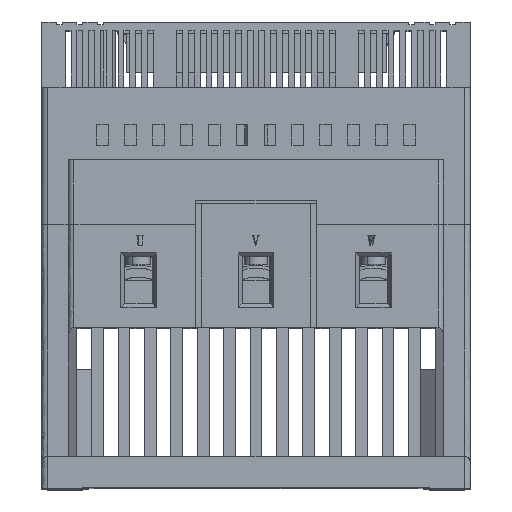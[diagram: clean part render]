
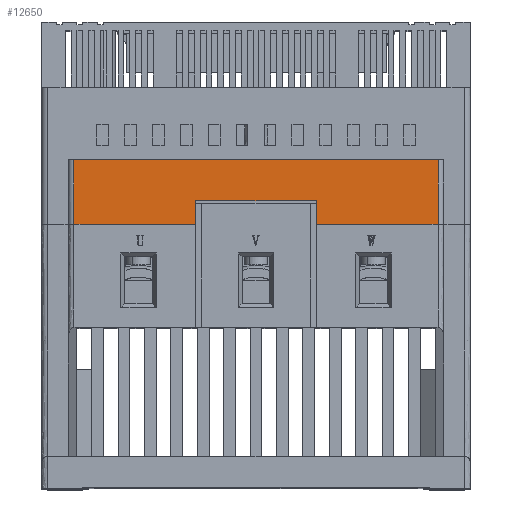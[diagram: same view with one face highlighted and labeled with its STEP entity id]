
A CAD part, top view. The second image highlights one B-rep face of the part: STEP entity #12650.
In plain terms, the highlighted free-form (B-spline) face has degree [1, 1] with [2, 2] control points.
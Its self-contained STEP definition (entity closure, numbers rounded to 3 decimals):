
#2680 = B_SPLINE_CURVE_WITH_KNOTS ( 'NONE', 1,
 ( #42200, #6937 ),
 .UNSPECIFIED., .F., .F.,
 ( 2, 2 ),
 ( 0., 1. ),
 .UNSPECIFIED. ) ;
#3439 = CARTESIAN_POINT ( 'NONE',  ( 135., 0., -135. ) ) ;
#4340 = EDGE_CURVE ( 'NONE', #36130, #27425, #2680, .T. ) ;
#6937 = CARTESIAN_POINT ( 'NONE',  ( 93.5, 0., -135. ) ) ;
#7110 = B_SPLINE_CURVE_WITH_KNOTS ( 'NONE', 1,
 ( #10839, #41053 ),
 .UNSPECIFIED., .F., .F.,
 ( 2, 2 ),
 ( 0., 1. ),
 .UNSPECIFIED. ) ;
#7111 = EDGE_LOOP ( 'NONE', ( #15878, #59703, #54954, #36921, #41712, #21718, #41530, #25032 ) ) ;
#9109 = EDGE_CURVE ( 'NONE', #24883, #40360, #21797, .T. ) ;
#10839 = CARTESIAN_POINT ( 'NONE',  ( 52.5, 0., -135. ) ) ;
#11999 = CARTESIAN_POINT ( 'NONE',  ( 93.5, 0., -135. ) ) ;
#12650 = ADVANCED_FACE ( 'NONE', ( #48367 ), #45875, .F. ) ;
#14284 = CARTESIAN_POINT ( 'NONE',  ( 52.5, 8., -135. ) ) ;
#15611 = EDGE_CURVE ( 'NONE', #55602, #42531, #24646, .T. ) ;
#15878 = ORIENTED_EDGE ( 'NONE', *, *, #39354, .T. ) ;
#17206 = B_SPLINE_CURVE_WITH_KNOTS ( 'NONE', 1,
 ( #43015, #48080 ),
 .UNSPECIFIED., .F., .F.,
 ( 2, 2 ),
 ( 0., 1. ),
 .UNSPECIFIED. ) ;
#18517 = VERTEX_POINT ( 'NONE', #65301 ) ;
#18572 = CARTESIAN_POINT ( 'NONE',  ( 11., 0., -135. ) ) ;
#19310 = CARTESIAN_POINT ( 'NONE',  ( 11., 0., -135. ) ) ;
#21267 = B_SPLINE_CURVE_WITH_KNOTS ( 'NONE', 1,
 ( #42195, #11999 ),
 .UNSPECIFIED., .F., .F.,
 ( 2, 2 ),
 ( 0., 1. ),
 .UNSPECIFIED. ) ;
#21718 = ORIENTED_EDGE ( 'NONE', *, *, #43496, .F. ) ;
#21797 = B_SPLINE_CURVE_WITH_KNOTS ( 'NONE', 1,
 ( #3439, #63801 ),
 .UNSPECIFIED., .F., .F.,
 ( 2, 2 ),
 ( -1., 0. ),
 .UNSPECIFIED. ) ;
#24356 = CARTESIAN_POINT ( 'NONE',  ( 52.5, 0., -135. ) ) ;
#24646 = B_SPLINE_CURVE_WITH_KNOTS ( 'NONE', 1,
 ( #24356, #19310 ),
 .UNSPECIFIED., .F., .F.,
 ( 2, 2 ),
 ( 0., 1. ),
 .UNSPECIFIED. ) ;
#24883 = VERTEX_POINT ( 'NONE', #26421 ) ;
#25032 = ORIENTED_EDGE ( 'NONE', *, *, #15611, .T. ) ;
#26421 = CARTESIAN_POINT ( 'NONE',  ( 135., 0., -135. ) ) ;
#27425 = VERTEX_POINT ( 'NONE', #39779 ) ;
#28702 = CARTESIAN_POINT ( 'NONE',  ( 135., 0., -135. ) ) ;
#29219 = B_SPLINE_CURVE_WITH_KNOTS ( 'NONE', 1,
 ( #14284, #49310 ),
 .UNSPECIFIED., .F., .F.,
 ( 2, 2 ),
 ( 0., 1. ),
 .UNSPECIFIED. ) ;
#32081 = EDGE_CURVE ( 'NONE', #18517, #40360, #32734, .T. ) ;
#32734 = B_SPLINE_CURVE_WITH_KNOTS ( 'NONE', 1,
 ( #63278, #38221 ),
 .UNSPECIFIED., .F., .F.,
 ( 2, 2 ),
 ( 0., 1. ),
 .UNSPECIFIED. ) ;
#35881 = CARTESIAN_POINT ( 'NONE',  ( 52.5, 8., -135. ) ) ;
#36130 = VERTEX_POINT ( 'NONE', #62005 ) ;
#36921 = ORIENTED_EDGE ( 'NONE', *, *, #44348, .T. ) ;
#38221 = CARTESIAN_POINT ( 'NONE',  ( 135., 22., -135. ) ) ;
#39339 = CARTESIAN_POINT ( 'NONE',  ( 52.5, 0., -135. ) ) ;
#39354 = EDGE_CURVE ( 'NONE', #42531, #18517, #17206, .T. ) ;
#39779 = CARTESIAN_POINT ( 'NONE',  ( 93.5, 0., -135. ) ) ;
#40360 = VERTEX_POINT ( 'NONE', #54314 ) ;
#41053 = CARTESIAN_POINT ( 'NONE',  ( 52.5, 8., -135. ) ) ;
#41530 = ORIENTED_EDGE ( 'NONE', *, *, #51629, .F. ) ;
#41712 = ORIENTED_EDGE ( 'NONE', *, *, #4340, .F. ) ;
#42195 = CARTESIAN_POINT ( 'NONE',  ( 135., 0., -135. ) ) ;
#42200 = CARTESIAN_POINT ( 'NONE',  ( 93.5, 8., -135. ) ) ;
#42531 = VERTEX_POINT ( 'NONE', #58040 ) ;
#43015 = CARTESIAN_POINT ( 'NONE',  ( 11., 0., -135. ) ) ;
#43496 = EDGE_CURVE ( 'NONE', #60762, #36130, #29219, .T. ) ;
#44348 = EDGE_CURVE ( 'NONE', #24883, #27425, #21267, .T. ) ;
#45875 = B_SPLINE_SURFACE_WITH_KNOTS ( 'NONE', 1, 1, ( 
 ( #18572, #58823 ),
 ( #28702, #63855 ) ),
 .UNSPECIFIED., .F., .F., .F.,
 ( 2, 2 ),
 ( 2, 2 ),
 ( 0., 1. ),
 ( 0., 1. ),
 .UNSPECIFIED. ) ;
#48080 = CARTESIAN_POINT ( 'NONE',  ( 11., 22., -135. ) ) ;
#48367 = FACE_OUTER_BOUND ( 'NONE', #7111, .T. ) ;
#49310 = CARTESIAN_POINT ( 'NONE',  ( 93.5, 8., -135. ) ) ;
#51629 = EDGE_CURVE ( 'NONE', #55602, #60762, #7110, .T. ) ;
#54314 = CARTESIAN_POINT ( 'NONE',  ( 135., 22., -135. ) ) ;
#54954 = ORIENTED_EDGE ( 'NONE', *, *, #9109, .F. ) ;
#55602 = VERTEX_POINT ( 'NONE', #39339 ) ;
#58040 = CARTESIAN_POINT ( 'NONE',  ( 11., 0., -135. ) ) ;
#58823 = CARTESIAN_POINT ( 'NONE',  ( 11., 22., -135. ) ) ;
#59703 = ORIENTED_EDGE ( 'NONE', *, *, #32081, .T. ) ;
#60762 = VERTEX_POINT ( 'NONE', #35881 ) ;
#62005 = CARTESIAN_POINT ( 'NONE',  ( 93.5, 8., -135. ) ) ;
#63278 = CARTESIAN_POINT ( 'NONE',  ( 11., 22., -135. ) ) ;
#63801 = CARTESIAN_POINT ( 'NONE',  ( 135., 22., -135. ) ) ;
#63855 = CARTESIAN_POINT ( 'NONE',  ( 135., 22., -135. ) ) ;
#65301 = CARTESIAN_POINT ( 'NONE',  ( 11., 22., -135. ) ) ;
